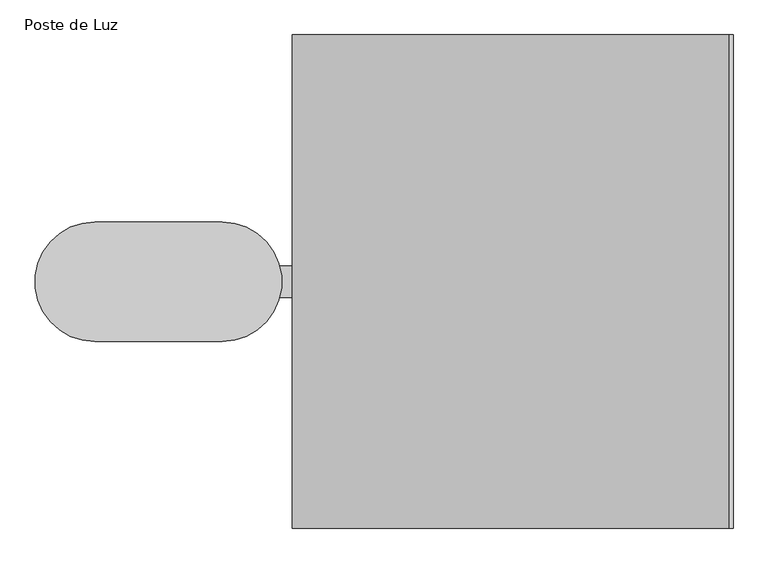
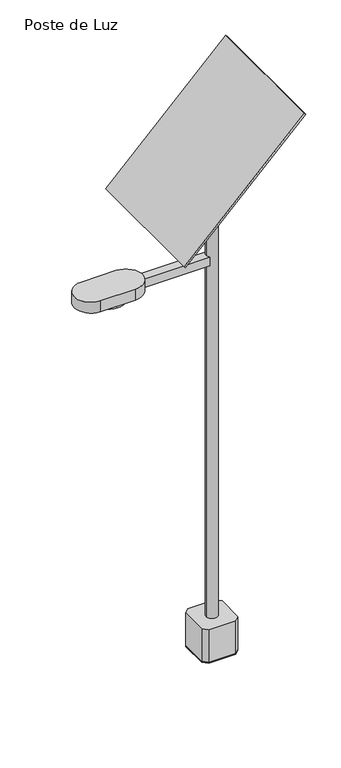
"""IFC4 building model written with IfcOpenShell, lengths in millimetres: light fixture geometry, Poste de Luz : Poste Señaletica A1 - Villa María."""

from ifc_helpers import new_model, si_unit, point, frame, frame_2d, origin, origin_with_axes, origin_2d, place, context, project, spatial, polyline, circle_curve, ellipse_curve, trimmed, segment, composite_curve, outline, extrude, source, transform, mapped, element, save
from ifc_brep_helpers import plane_surface, revolved_surface, advanced_brep


def poste_de_luz_eb11a457(model_context):
    return source(origin(), model_context, "Body", "SolidModel", [
        extrude(outline(composite_curve([segment(trimmed(circle_curve(frame_2d((-759.4, 0.0)), 145.0), [point((-759.4, 145.0))], [point((-759.4, -145.0))], False, "CARTESIAN"), True, "CONTINUOUS"), segment(polyline([(-759.4, -145.0), (-1069.4, -145.0)]), True, "CONTINUOUS"), segment(trimmed(circle_curve(frame_2d((-1069.4, 0.0)), 145.0), [point((-1069.4, -145.0))], [point((-1069.4, 145.0))], False, "CARTESIAN"), True, "CONTINUOUS"), segment(polyline([(-1069.4, 145.0), (-759.4, 145.0)]), True, "CONTINUOUS")], self_intersect=False)), frame((0.0, 0.0, 3594.8), z_axis=(0.0, 0.0, 1.0), x_axis=(1.0, 0.0, 0.0)), (0.0, 0.0, 1.0), 100.0),
        extrude(outline(polyline([(0.0, -261.5169428), (0.0, 0.0), (200.0, 0.0), (200.0, -261.5169428), (0.0, -261.5169428)])), frame((-13.1335702, -130.7584714, 4393.2856065), z_axis=(0.7071067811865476, 0.0, 0.7071067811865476), x_axis=(-0.7071067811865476, 0.0, 0.7071067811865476)), (0.0, 0.0, 1.0), 300.0),
        extrude(outline(polyline([(0.0, -1200.0), (0.0, 0.0), (14.611795, 0.0), (14.611795, -1200.0), (0.0, -1200.0)])), frame((-578.8189952, -600.0, 4110.4428941), z_axis=(0.7071067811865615, 0.0, 0.7071067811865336), x_axis=(-0.7071067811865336, 0.0, 0.7071067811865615)), (0.0, 0.0, 1.0), 1500.0),
        extrude(outline(polyline([(-914.4, 38.1), (-38.1, 38.1), (-38.1, -38.1), (-914.4, -38.1), (-914.4, 38.1)])), frame((0.0, 0.0, 3594.8), z_axis=(0.0, 0.0, 1.0), x_axis=(1.0, 0.0, 0.0)), (0.0, 0.0, 1.0), 81.6),
        extrude(outline(composite_curve([segment(trimmed(circle_curve(origin_2d(), 50.8), [point((-50.8, 0.0))], [point((50.8, 0.0))], False, "CARTESIAN"), True, "CONTINUOUS"), segment(trimmed(circle_curve(origin_2d(), 50.8), [point((50.8, 0.0))], [point((-50.8, 0.0))], False, "CARTESIAN"), True, "CONTINUOUS")], self_intersect=False)), frame((0.0, 0.0, 304.8), z_axis=(0.0, 0.0, 1.0), x_axis=(1.0, 0.0, 0.0)), (0.0, 0.0, 1.0), 4195.2),
        extrude(outline(polyline([(120.0, 160.0), (160.0, 120.0), (160.0, -120.0), (120.0, -160.0), (-120.0, -160.0), (-160.0, -120.0), (-160.0, 120.0), (-120.0, 160.0), (120.0, 160.0)])), origin_with_axes(), (0.0, 0.0, 1.0), 304.8),
        extrude(outline(polyline([(-120.0, -160.0), (-160.0, -120.0), (-160.0, 120.0), (-120.0, 160.0), (120.0, 160.0), (160.0, 120.0), (160.0, -120.0), (120.0, -160.0), (-120.0, -160.0)])), frame((0.0, 0.0, -10.0), z_axis=(0.0, 0.0, 1.0), x_axis=(1.0, 0.0, 0.0)), (0.0, 0.0, 1.0), 10.0),
        advanced_brep(
        [(-914.4, -110.3635332, 3574.8), (-914.4, 110.3635332, 3574.8), (-914.4, 0.0, 3555.3399314), (-914.4, -145.0, 3574.8), (-914.4, 145.0, 3574.8), (-914.4, 0.0, 3537.5699657)],
        [
            (0, 1, circle_curve(frame((-914.4, 0.0, 3574.8), z_axis=(0.0, 0.0, 1.0), x_axis=(0.0, 1.0, 0.0)), 110.3635332)),
            (1, 2),
            (2, 0),
            (1, 0, circle_curve(frame((-914.4, 0.0, 3574.8), z_axis=(0.0, 0.0, 1.0), x_axis=(0.0, 1.0, 0.0)), 110.3635332)),
            (3, 4, circle_curve(frame((-914.4, 0.0, 3574.8), z_axis=(0.0, 0.0, 1.0), x_axis=(0.0, 1.0, 0.0)), 145.0)),
            (4, 1),
            (0, 3),
            (4, 3, circle_curve(frame((-914.4, 0.0, 3574.8), z_axis=(0.0, 0.0, 1.0), x_axis=(0.0, 1.0, 0.0)), 145.0)),
            (5, 4, circle_curve(frame((-914.4, -29.9435426, 3955.1723586), z_axis=(1.0, 0.0, 0.0), x_axis=(0.0, 1.0, 0.0)), 418.6745446)),
            (3, 5, circle_curve(frame((-914.4, 29.9435426, 3955.1723586), z_axis=(1.0, 0.0, 0.0), x_axis=(0.0, -1.0, 0.0)), 418.6745446)),
        ],
        [
            revolved_surface(polyline([(-914.4, 0.0, 3555.3399314), (-914.4, 110.3635332, 3574.8)]), (-914.4, 0.0, 3651.0), (0.0, 0.0, -1.0)),
            plane_surface(frame((-914.4, 0.0, 3574.8), z_axis=(0.0, 0.0, 1.0), x_axis=(0.0, 1.0, 0.0))),
            revolved_surface(trimmed(ellipse_curve(frame((-914.4, -29.9435426, 3955.1723586), z_axis=(-1.0, 0.0, 0.0), x_axis=(0.0, 1.0, 0.0)), 418.6745446, 418.6745446), [point((-914.4, 145.0, 3574.8))], [point((-914.4, 0.0, 3537.5699657))], True, "CARTESIAN"), (-914.4, 0.0, 3651.0), (0.0, 0.0, -1.0)),
        ],
        [
            (0, [[1, 2, 3]]),
            (0, [[4, -3, -2]]),
            (1, [[5, 6, -1, 7]]),
            (1, [[8, -7, -4, -6]]),
            (2, [[9, -5, 10]]),
            (2, [[-10, -8, -9]]),
        ],
    ),
    ])


if __name__ == "__main__":
    model = new_model("IFC4")
    model_context = context("Model", 3, world=origin())
    ifc_project = project(units=[si_unit("LENGTHUNIT", "METRE", prefix="MILLI")], contexts=[model_context])
    site = spatial("IfcSite", under=ifc_project)
    building = spatial("IfcBuilding", under=site)
    placement = place(None, origin())
    poste_de_luz_shape = poste_de_luz_eb11a457(model_context)
    element("IfcLightFixture", 1, ObjectType="Poste de Luz : Poste Señaletica A1 - Villa María", at=placement, inside=building, context=model_context, shape_type="MappedRepresentation", body=[
        mapped(poste_de_luz_shape, transform((0.0, 0.0, 0.0), x_axis=(1.0, 0.0, 0.0), y_axis=(0.0, 1.0, 0.0), z_axis=(0.0, 0.0, 1.0))),
    ])
    save(model, "model.ifc")
